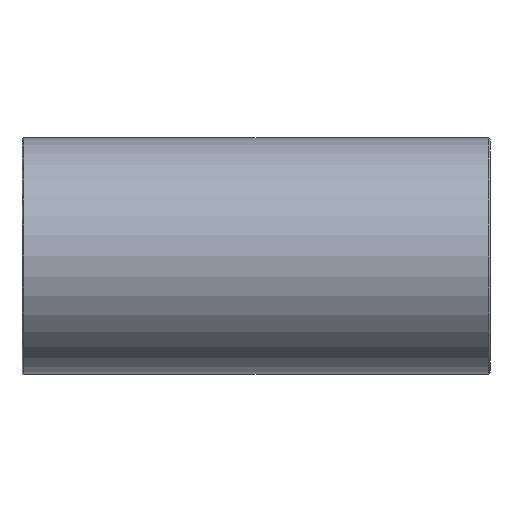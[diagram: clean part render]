
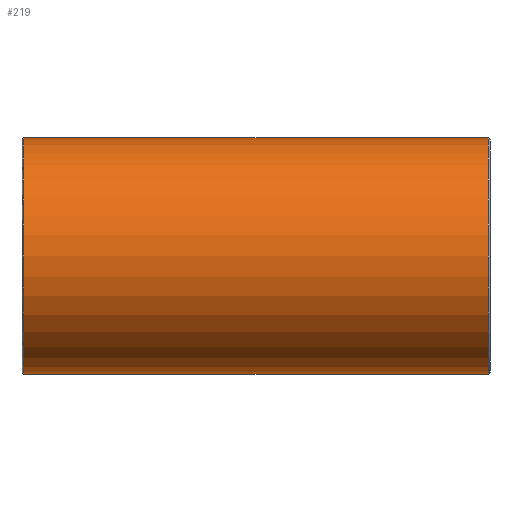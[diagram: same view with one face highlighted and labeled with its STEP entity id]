
A CAD part, front view. The second image highlights one B-rep face of the part: STEP entity #219.
In plain terms, the highlighted cylindrical face has radius 25 mm (diameter 50 mm), a full revolution.
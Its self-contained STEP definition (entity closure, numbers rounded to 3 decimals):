
#27=B_SPLINE_CURVE_WITH_KNOTS('',3,(#363,#364,#365,#366,#367,#368,#369,
#370,#371,#372,#373,#374,#375,#376,#377,#378,#379,#380,#381,#382,#383,#384,
#385,#386,#387,#388,#389,#390,#391,#392,#393,#394,#395,#396,#397,#398,#399,
#400,#401,#402,#403,#404,#405,#406,#407,#408,#409,#410,#411,#412,#413,#414,
#415,#416,#417,#418,#419,#420,#421,#422,#423,#424,#425,#426,#427,#428),
 .UNSPECIFIED.,.T.,.F.,(4,2,2,2,2,2,2,2,2,2,2,2,2,2,2,2,2,2,2,2,2,2,2,2,
2,2,2,2,2,2,2,2,4),(0.,0.472,0.943,1.415,
1.887,2.33,2.773,3.216,3.66,
4.103,4.546,4.989,5.433,5.904,
6.376,6.848,7.319,7.791,8.263,
8.734,9.206,9.649,10.093,10.536,
10.979,11.422,11.866,12.309,12.752,
13.224,13.695,14.167,14.639),
 .UNSPECIFIED.);
#29=FACE_BOUND('',#70,.T.);
#30=FACE_BOUND('',#71,.T.);
#50=FACE_OUTER_BOUND('',#69,.T.);
#69=EDGE_LOOP('',(#170));
#70=EDGE_LOOP('',(#171));
#71=EDGE_LOOP('',(#172));
#109=CIRCLE('',#241,25.);
#110=CIRCLE('',#242,25.);
#128=VERTEX_POINT('',#358);
#129=VERTEX_POINT('',#360);
#130=VERTEX_POINT('',#362);
#149=EDGE_CURVE('',#128,#128,#109,.T.);
#150=EDGE_CURVE('',#129,#129,#110,.T.);
#151=EDGE_CURVE('',#130,#130,#27,.T.);
#170=ORIENTED_EDGE('',*,*,#149,.F.);
#171=ORIENTED_EDGE('',*,*,#150,.F.);
#172=ORIENTED_EDGE('',*,*,#151,.F.);
#212=CYLINDRICAL_SURFACE('',#240,25.);
#219=ADVANCED_FACE('',(#50,#29,#30),#212,.T.);
#240=AXIS2_PLACEMENT_3D('',#357,#280,#281);
#241=AXIS2_PLACEMENT_3D('',#359,#282,#283);
#242=AXIS2_PLACEMENT_3D('',#361,#284,#285);
#280=DIRECTION('center_axis',(1.,0.,0.));
#281=DIRECTION('ref_axis',(0.,1.,0.));
#282=DIRECTION('center_axis',(-1.,0.,0.));
#283=DIRECTION('ref_axis',(0.,-1.,0.));
#284=DIRECTION('center_axis',(1.,0.,0.));
#285=DIRECTION('ref_axis',(0.,-1.,0.));
#357=CARTESIAN_POINT('Origin',(0.,0.,
0.));
#358=CARTESIAN_POINT('',(-49.1,25.,0.));
#359=CARTESIAN_POINT('Origin',(-49.1,0.,0.));
#360=CARTESIAN_POINT('',(49.1,25.,0.));
#361=CARTESIAN_POINT('Origin',(49.1,0.,0.));
#362=CARTESIAN_POINT('',(0.,11.874,22.));
#363=CARTESIAN_POINT('Ctrl Pts',(0.,11.874,22.));
#364=CARTESIAN_POINT('Ctrl Pts',(1.572,11.874,22.));
#365=CARTESIAN_POINT('Ctrl Pts',(3.07,12.191,21.834));
#366=CARTESIAN_POINT('Ctrl Pts',(5.939,13.209,21.234));
#367=CARTESIAN_POINT('Ctrl Pts',(7.311,13.904,20.798));
#368=CARTESIAN_POINT('Ctrl Pts',(9.933,15.445,19.682));
#369=CARTESIAN_POINT('Ctrl Pts',(11.18,16.29,18.999));
#370=CARTESIAN_POINT('Ctrl Pts',(13.508,17.967,17.422));
#371=CARTESIAN_POINT('Ctrl Pts',(14.587,18.8,16.525));
#372=CARTESIAN_POINT('Ctrl Pts',(16.467,20.294,14.646));
#373=CARTESIAN_POINT('Ctrl Pts',(17.345,21.016,13.605));
#374=CARTESIAN_POINT('Ctrl Pts',(18.929,22.341,11.298));
#375=CARTESIAN_POINT('Ctrl Pts',(19.635,22.944,10.031));
#376=CARTESIAN_POINT('Ctrl Pts',(20.792,23.942,7.338));
#377=CARTESIAN_POINT('Ctrl Pts',(21.245,24.337,5.908));
#378=CARTESIAN_POINT('Ctrl Pts',(21.849,24.867,2.978));
#379=CARTESIAN_POINT('Ctrl Pts',(22.,25.,1.478));
#380=CARTESIAN_POINT('Ctrl Pts',(22.,25.,-1.478));
#381=CARTESIAN_POINT('Ctrl Pts',(21.849,24.867,-2.978));
#382=CARTESIAN_POINT('Ctrl Pts',(21.245,24.337,-5.908));
#383=CARTESIAN_POINT('Ctrl Pts',(20.792,23.942,-7.338));
#384=CARTESIAN_POINT('Ctrl Pts',(19.635,22.944,-10.031));
#385=CARTESIAN_POINT('Ctrl Pts',(18.929,22.341,-11.298));
#386=CARTESIAN_POINT('Ctrl Pts',(17.345,21.016,-13.605));
#387=CARTESIAN_POINT('Ctrl Pts',(16.467,20.294,-14.646));
#388=CARTESIAN_POINT('Ctrl Pts',(14.587,18.8,-16.525));
#389=CARTESIAN_POINT('Ctrl Pts',(13.508,17.967,-17.422));
#390=CARTESIAN_POINT('Ctrl Pts',(11.18,16.29,-18.999));
#391=CARTESIAN_POINT('Ctrl Pts',(9.933,15.445,-19.682));
#392=CARTESIAN_POINT('Ctrl Pts',(7.311,13.904,-20.798));
#393=CARTESIAN_POINT('Ctrl Pts',(5.939,13.209,-21.234));
#394=CARTESIAN_POINT('Ctrl Pts',(3.07,12.191,-21.834));
#395=CARTESIAN_POINT('Ctrl Pts',(1.572,11.874,-22.));
#396=CARTESIAN_POINT('Ctrl Pts',(-1.572,11.874,-22.));
#397=CARTESIAN_POINT('Ctrl Pts',(-3.07,12.191,-21.834));
#398=CARTESIAN_POINT('Ctrl Pts',(-5.939,13.209,-21.234));
#399=CARTESIAN_POINT('Ctrl Pts',(-7.311,13.904,-20.798));
#400=CARTESIAN_POINT('Ctrl Pts',(-9.933,15.445,-19.682));
#401=CARTESIAN_POINT('Ctrl Pts',(-11.18,16.29,-18.999));
#402=CARTESIAN_POINT('Ctrl Pts',(-13.508,17.967,-17.422));
#403=CARTESIAN_POINT('Ctrl Pts',(-14.587,18.8,-16.525));
#404=CARTESIAN_POINT('Ctrl Pts',(-16.467,20.294,-14.646));
#405=CARTESIAN_POINT('Ctrl Pts',(-17.345,21.016,-13.605));
#406=CARTESIAN_POINT('Ctrl Pts',(-18.929,22.341,-11.298));
#407=CARTESIAN_POINT('Ctrl Pts',(-19.635,22.944,-10.031));
#408=CARTESIAN_POINT('Ctrl Pts',(-20.792,23.942,-7.338));
#409=CARTESIAN_POINT('Ctrl Pts',(-21.245,24.337,-5.908));
#410=CARTESIAN_POINT('Ctrl Pts',(-21.849,24.867,-2.978));
#411=CARTESIAN_POINT('Ctrl Pts',(-22.,25.,-1.478));
#412=CARTESIAN_POINT('Ctrl Pts',(-22.,25.,1.478));
#413=CARTESIAN_POINT('Ctrl Pts',(-21.849,24.867,2.978));
#414=CARTESIAN_POINT('Ctrl Pts',(-21.245,24.337,5.908));
#415=CARTESIAN_POINT('Ctrl Pts',(-20.792,23.942,7.338));
#416=CARTESIAN_POINT('Ctrl Pts',(-19.635,22.944,10.031));
#417=CARTESIAN_POINT('Ctrl Pts',(-18.929,22.341,11.298));
#418=CARTESIAN_POINT('Ctrl Pts',(-17.345,21.016,13.605));
#419=CARTESIAN_POINT('Ctrl Pts',(-16.467,20.294,14.646));
#420=CARTESIAN_POINT('Ctrl Pts',(-14.587,18.8,16.525));
#421=CARTESIAN_POINT('Ctrl Pts',(-13.508,17.967,17.422));
#422=CARTESIAN_POINT('Ctrl Pts',(-11.18,16.29,18.999));
#423=CARTESIAN_POINT('Ctrl Pts',(-9.933,15.445,19.682));
#424=CARTESIAN_POINT('Ctrl Pts',(-7.311,13.904,20.798));
#425=CARTESIAN_POINT('Ctrl Pts',(-5.939,13.209,21.234));
#426=CARTESIAN_POINT('Ctrl Pts',(-3.07,12.191,21.834));
#427=CARTESIAN_POINT('Ctrl Pts',(-1.572,11.874,22.));
#428=CARTESIAN_POINT('Ctrl Pts',(0.,11.874,
22.));
